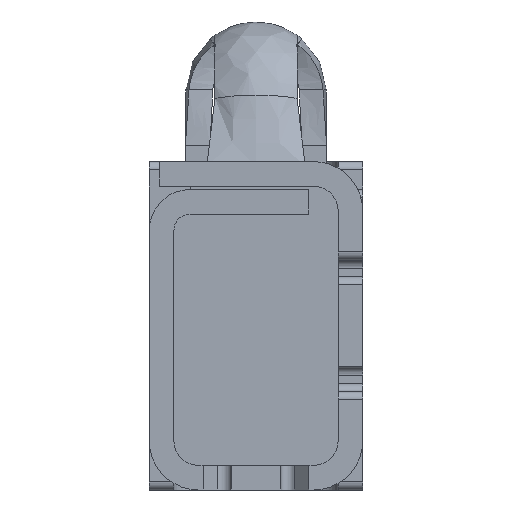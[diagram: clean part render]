
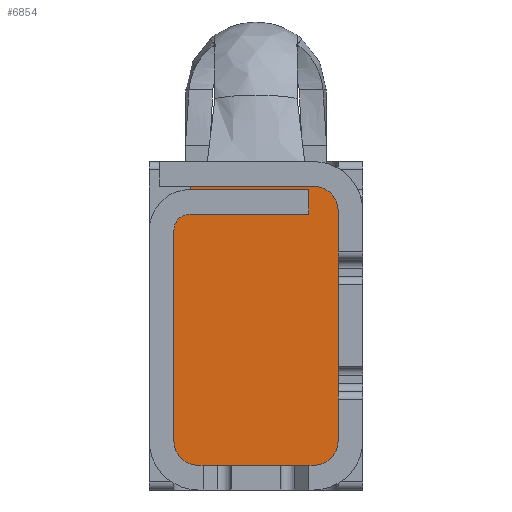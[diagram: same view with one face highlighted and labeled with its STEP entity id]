
A CAD part, left-side view. The second image highlights one B-rep face of the part: STEP entity #6854.
In plain terms, the highlighted planar face has unit normal (-1, 0, 0).
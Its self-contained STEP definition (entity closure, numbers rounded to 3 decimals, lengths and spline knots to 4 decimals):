
#1151=DIRECTION('',(0.,0.,-1.));
#1152=VECTOR('',#1151,0.3);
#1153=CARTESIAN_POINT('',(-1.06,0.5,-0.3));
#1154=LINE('',#1153,#1152);
#1160=DIRECTION('',(0.,0.,-1.));
#1161=VECTOR('',#1160,0.5);
#1162=CARTESIAN_POINT('',(-1.06,0.5,-0.75));
#1163=LINE('',#1162,#1161);
#1172=DIRECTION('',(0.,0.,-1.));
#1173=VECTOR('',#1172,0.3);
#1174=CARTESIAN_POINT('',(-1.06,0.5,-1.4));
#1175=LINE('',#1174,#1173);
#1291=DIRECTION('',(0.,0.,1.));
#1292=VECTOR('',#1291,0.02);
#1293=CARTESIAN_POINT('',(-1.06,-0.4,-1.85));
#1294=LINE('',#1293,#1292);
#1295=DIRECTION('',(0.,0.,-1.));
#1296=VECTOR('',#1295,0.15);
#1297=CARTESIAN_POINT('',(-1.06,0.5,-1.25));
#1298=LINE('',#1297,#1296);
#1299=DIRECTION('',(0.,0.,-1.));
#1300=VECTOR('',#1299,0.15);
#1301=CARTESIAN_POINT('',(-1.06,0.5,-0.6));
#1302=LINE('',#1301,#1300);
#1303=DIRECTION('',(0.,1.,0.));
#1304=VECTOR('',#1303,0.1207);
#1305=CARTESIAN_POINT('',(-1.06,0.15,-0.15));
#1306=LINE('',#1305,#1304);
#1307=DIRECTION('',(0.,1.,0.));
#1308=VECTOR('',#1307,0.1207);
#1309=CARTESIAN_POINT('',(-1.06,-0.2707,-0.15));
#1310=LINE('',#1309,#1308);
#1311=DIRECTION('',(0.,0.,-1.));
#1312=VECTOR('',#1311,1.28);
#1313=CARTESIAN_POINT('',(-1.06,-0.5,-0.3));
#1314=LINE('',#1313,#1312);
#1399=CARTESIAN_POINT('',(-1.06,-0.35,-0.3));
#1400=DIRECTION('',(1.,0.,0.));
#1401=DIRECTION('',(0.,0.,1.));
#1402=AXIS2_PLACEMENT_3D('',#1399,#1400,#1401);
#1408=DIRECTION('',(0.,1.,0.));
#1409=VECTOR('',#1408,0.0793);
#1410=CARTESIAN_POINT('',(-1.06,-0.35,-0.15));
#1411=LINE('',#1410,#1409);
#1416=DIRECTION('',(0.,1.,0.));
#1417=VECTOR('',#1416,0.3);
#1418=CARTESIAN_POINT('',(-1.06,-0.15,-0.15));
#1419=LINE('',#1418,#1417);
#1428=DIRECTION('',(0.,1.,0.));
#1429=VECTOR('',#1428,0.0793);
#1430=CARTESIAN_POINT('',(-1.06,0.2707,-0.15));
#1431=LINE('',#1430,#1429);
#3041=DIRECTION('',(0.,-1.,0.));
#3042=VECTOR('',#3041,0.75);
#3043=CARTESIAN_POINT('',(-1.06,0.35,-1.85));
#3044=LINE('',#3043,#3042);
#3553=CARTESIAN_POINT('',(-1.06,0.35,-1.7));
#3554=DIRECTION('',(-1.,0.,0.));
#3555=DIRECTION('',(0.,1.,0.));
#3556=AXIS2_PLACEMENT_3D('',#3553,#3554,#3555);
#3581=DIRECTION('',(0.,-1.,0.));
#3582=VECTOR('',#3581,0.72);
#3583=CARTESIAN_POINT('',(-1.06,0.32,-1.83));
#3584=LINE('',#3583,#3582);
#3593=DIRECTION('',(0.,0.,-1.));
#3594=VECTOR('',#3593,0.15);
#3595=CARTESIAN_POINT('',(-1.06,0.32,-1.68));
#3596=LINE('',#3595,#3594);
#3609=DIRECTION('',(0.,-1.,0.));
#3610=VECTOR('',#3609,0.72);
#3611=CARTESIAN_POINT('',(-1.06,0.32,-1.68));
#3612=LINE('',#3611,#3610);
#3617=CARTESIAN_POINT('',(-1.06,-0.4,-1.58));
#3618=DIRECTION('',(1.,0.,0.));
#3619=DIRECTION('',(0.,-1.,0.));
#3620=AXIS2_PLACEMENT_3D('',#3617,#3618,#3619);
#3695=CARTESIAN_POINT('',(-1.06,0.35,-0.3));
#3696=DIRECTION('',(1.,0.,0.));
#3697=DIRECTION('',(0.,1.,0.));
#3698=AXIS2_PLACEMENT_3D('',#3695,#3696,#3697);
#4339=CARTESIAN_POINT('',(-1.06,-0.5,-0.3));
#4340=CARTESIAN_POINT('',(-1.06,-0.5,-1.58));
#4341=VERTEX_POINT('',#4339);
#4342=VERTEX_POINT('',#4340);
#4343=CARTESIAN_POINT('',(-1.06,-0.35,-0.15));
#4344=CARTESIAN_POINT('',(-1.06,-0.2707,-0.15));
#4345=VERTEX_POINT('',#4343);
#4346=VERTEX_POINT('',#4344);
#4347=CARTESIAN_POINT('',(-1.06,-0.15,-0.15));
#4348=CARTESIAN_POINT('',(-1.06,0.15,-0.15));
#4349=VERTEX_POINT('',#4347);
#4350=VERTEX_POINT('',#4348);
#4351=CARTESIAN_POINT('',(-1.06,0.2707,-0.15));
#4352=CARTESIAN_POINT('',(-1.06,0.35,-0.15));
#4353=VERTEX_POINT('',#4351);
#4354=VERTEX_POINT('',#4352);
#4355=CARTESIAN_POINT('',(-1.06,0.5,-0.3));
#4356=CARTESIAN_POINT('',(-1.06,0.5,-0.6));
#4357=VERTEX_POINT('',#4355);
#4358=VERTEX_POINT('',#4356);
#4359=CARTESIAN_POINT('',(-1.06,0.5,-0.75));
#4360=CARTESIAN_POINT('',(-1.06,0.5,-1.25));
#4361=VERTEX_POINT('',#4359);
#4362=VERTEX_POINT('',#4360);
#4363=CARTESIAN_POINT('',(-1.06,0.5,-1.4));
#4364=CARTESIAN_POINT('',(-1.06,0.5,-1.7));
#4365=VERTEX_POINT('',#4363);
#4366=VERTEX_POINT('',#4364);
#4383=CARTESIAN_POINT('',(-1.06,0.35,-1.85));
#4384=CARTESIAN_POINT('',(-1.06,-0.4,-1.85));
#4385=VERTEX_POINT('',#4383);
#4386=VERTEX_POINT('',#4384);
#4421=CARTESIAN_POINT('',(-1.06,0.32,-1.68));
#4422=CARTESIAN_POINT('',(-1.06,0.32,-1.83));
#4423=VERTEX_POINT('',#4421);
#4424=VERTEX_POINT('',#4422);
#4425=CARTESIAN_POINT('',(-1.06,-0.4,-1.68));
#4426=VERTEX_POINT('',#4425);
#4427=CARTESIAN_POINT('',(-1.06,-0.4,-1.83));
#4428=VERTEX_POINT('',#4427);
#6810=CARTESIAN_POINT('',(-1.06,0.,0.));
#6811=DIRECTION('',(-1.,0.,0.));
#6812=DIRECTION('',(0.,1.,0.));
#6813=AXIS2_PLACEMENT_3D('',#6810,#6811,#6812);
#6814=PLANE('',#6813);
#6816=ORIENTED_EDGE('',*,*,#6815,.T.);
#6818=ORIENTED_EDGE('',*,*,#6817,.T.);
#6820=ORIENTED_EDGE('',*,*,#6819,.F.);
#6822=ORIENTED_EDGE('',*,*,#6821,.T.);
#6824=ORIENTED_EDGE('',*,*,#6823,.T.);
#6826=ORIENTED_EDGE('',*,*,#6825,.F.);
#6828=ORIENTED_EDGE('',*,*,#6827,.F.);
#6830=ORIENTED_EDGE('',*,*,#6829,.F.);
#6831=ORIENTED_EDGE('',*,*,#6693,.F.);
#6833=ORIENTED_EDGE('',*,*,#6832,.F.);
#6834=ORIENTED_EDGE('',*,*,#6677,.F.);
#6836=ORIENTED_EDGE('',*,*,#6835,.F.);
#6837=ORIENTED_EDGE('',*,*,#6661,.F.);
#6839=ORIENTED_EDGE('',*,*,#6838,.T.);
#6841=ORIENTED_EDGE('',*,*,#6840,.F.);
#6843=ORIENTED_EDGE('',*,*,#6842,.F.);
#6845=ORIENTED_EDGE('',*,*,#6844,.F.);
#6847=ORIENTED_EDGE('',*,*,#6846,.F.);
#6849=ORIENTED_EDGE('',*,*,#6848,.F.);
#6851=ORIENTED_EDGE('',*,*,#6850,.T.);
#6852=EDGE_LOOP('',(#6816,#6818,#6820,#6822,#6824,#6826,#6828,#6830,#6831,#6833,
#6834,#6836,#6837,#6839,#6841,#6843,#6845,#6847,#6849,#6851));
#6853=FACE_OUTER_BOUND('',#6852,.F.);
#6854=ADVANCED_FACE('',(#6853),#6814,.T.);
#1403=CIRCLE('',#1402,0.15);
#3557=CIRCLE('',#3556,0.15);
#3621=CIRCLE('',#3620,0.1);
#3699=CIRCLE('',#3698,0.15);
#6661=EDGE_CURVE('',#4357,#4358,#1154,.T.);
#6677=EDGE_CURVE('',#4361,#4362,#1163,.T.);
#6693=EDGE_CURVE('',#4365,#4366,#1175,.T.);
#6815=EDGE_CURVE('',#4341,#4342,#1314,.T.);
#6817=EDGE_CURVE('',#4342,#4426,#3621,.T.);
#6819=EDGE_CURVE('',#4423,#4426,#3612,.T.);
#6821=EDGE_CURVE('',#4423,#4424,#3596,.T.);
#6823=EDGE_CURVE('',#4424,#4428,#3584,.T.);
#6825=EDGE_CURVE('',#4386,#4428,#1294,.T.);
#6827=EDGE_CURVE('',#4385,#4386,#3044,.T.);
#6829=EDGE_CURVE('',#4366,#4385,#3557,.T.);
#6832=EDGE_CURVE('',#4362,#4365,#1298,.T.);
#6835=EDGE_CURVE('',#4358,#4361,#1302,.T.);
#6838=EDGE_CURVE('',#4357,#4354,#3699,.T.);
#6840=EDGE_CURVE('',#4353,#4354,#1431,.T.);
#6842=EDGE_CURVE('',#4350,#4353,#1306,.T.);
#6844=EDGE_CURVE('',#4349,#4350,#1419,.T.);
#6846=EDGE_CURVE('',#4346,#4349,#1310,.T.);
#6848=EDGE_CURVE('',#4345,#4346,#1411,.T.);
#6850=EDGE_CURVE('',#4345,#4341,#1403,.T.);
